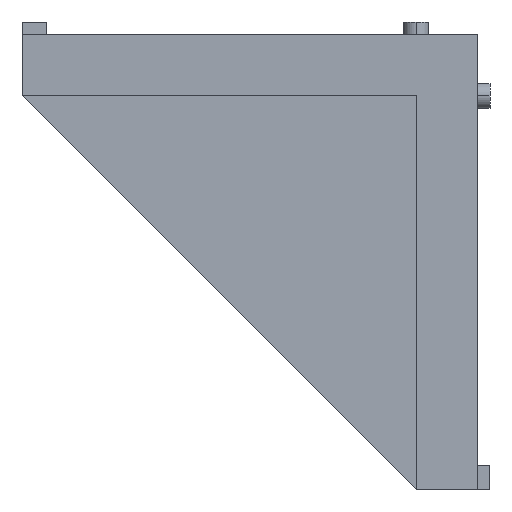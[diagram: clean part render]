
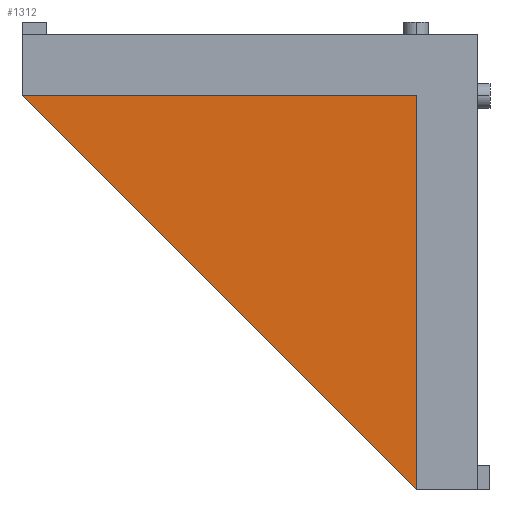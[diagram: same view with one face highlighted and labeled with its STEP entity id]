
A CAD part, left-side view. The second image highlights one B-rep face of the part: STEP entity #1312.
In plain terms, the highlighted planar face has unit normal (-1, 0, 0).
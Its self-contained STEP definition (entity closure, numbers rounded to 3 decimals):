
#149 = FACE_OUTER_BOUND ( 'NONE', #568, .T. ) ;
#172 = VECTOR ( 'NONE', #1569, 1000. ) ;
#174 = AXIS2_PLACEMENT_3D ( 'NONE', #241, #1250, #248 ) ;
#184 = ORIENTED_EDGE ( 'NONE', *, *, #1010, .F. ) ;
#215 = VERTEX_POINT ( 'NONE', #1901 ) ;
#241 = CARTESIAN_POINT ( 'NONE',  ( -4.552, 0., 0. ) ) ;
#248 = DIRECTION ( 'NONE',  ( 0., 1., 0. ) ) ;
#324 = CARTESIAN_POINT ( 'NONE',  ( -4.552, 27.814, 0. ) ) ;
#394 = EDGE_CURVE ( 'NONE', #713, #215, #512, .T. ) ;
#512 = LINE ( 'NONE', #964, #894 ) ;
#568 = EDGE_LOOP ( 'NONE', ( #1453, #629, #184 ) ) ;
#594 = CARTESIAN_POINT ( 'NONE',  ( -4.552, -4.189, -32. ) ) ;
#629 = ORIENTED_EDGE ( 'NONE', *, *, #1680, .F. ) ;
#638 = LINE ( 'NONE', #1221, #172 ) ;
#713 = VERTEX_POINT ( 'NONE', #1670 ) ;
#836 = VECTOR ( 'NONE', #1329, 1000. ) ;
#894 = VECTOR ( 'NONE', #1461, 1000. ) ;
#964 = CARTESIAN_POINT ( 'NONE',  ( -4.552, -4.189, 0. ) ) ;
#1010 = EDGE_CURVE ( 'NONE', #215, #1100, #638, .T. ) ;
#1100 = VERTEX_POINT ( 'NONE', #594 ) ;
#1221 = CARTESIAN_POINT ( 'NONE',  ( -4.552, -4.189, -32. ) ) ;
#1250 = DIRECTION ( 'NONE',  ( 1., 0., 0. ) ) ;
#1312 = ADVANCED_FACE ( 'NONE', ( #149 ), #1905, .F. ) ;
#1329 = DIRECTION ( 'NONE',  ( 0., 0.707, 0.707 ) ) ;
#1453 = ORIENTED_EDGE ( 'NONE', *, *, #394, .F. ) ;
#1461 = DIRECTION ( 'NONE',  ( 0., -1., 0. ) ) ;
#1569 = DIRECTION ( 'NONE',  ( 0., 0., -1. ) ) ;
#1670 = CARTESIAN_POINT ( 'NONE',  ( -4.552, 27.814, 0. ) ) ;
#1680 = EDGE_CURVE ( 'NONE', #1100, #713, #1706, .T. ) ;
#1706 = LINE ( 'NONE', #324, #836 ) ;
#1901 = CARTESIAN_POINT ( 'NONE',  ( -4.552, -4.189, 0. ) ) ;
#1905 = PLANE ( 'NONE',  #174 ) ;
